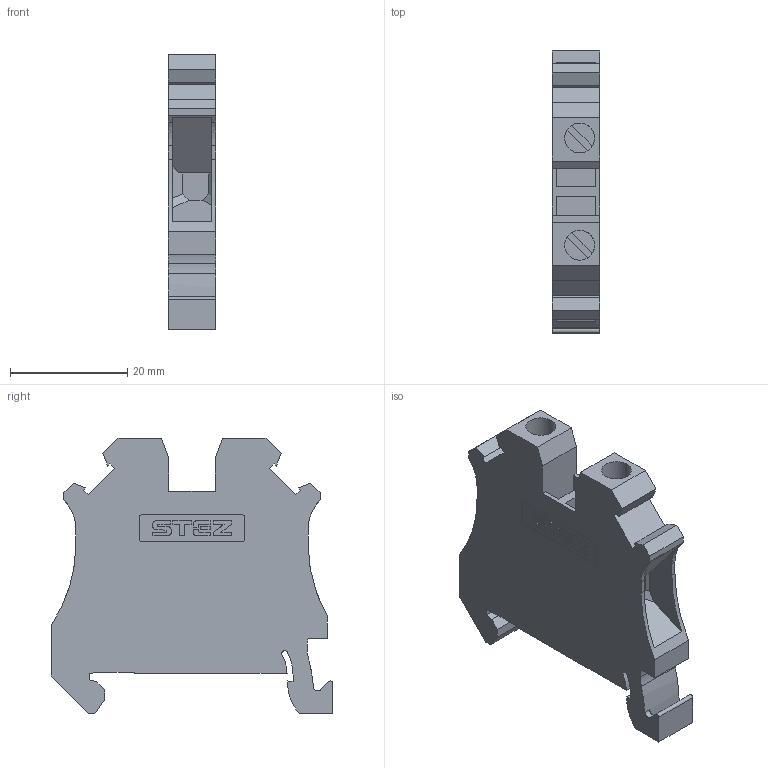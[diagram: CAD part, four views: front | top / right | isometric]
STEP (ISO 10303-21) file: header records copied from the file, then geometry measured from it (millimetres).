
FILE_DESCRIPTION(('TFLEX Exchange Step'),'2;1');
FILE_NAME('11000027_KHB_6-2-O.stp', '2023-10-03T10:43:14+03:00',('apanin'),('Unknown organisation'),'TFLEX Exchange 2023.0','T-FLEX CAD','Unknown authorisation');
FILE_SCHEMA( ('AUTOMOTIVE_DESIGN { 1 0 10303 214 1 1 1 1 }') );
Length unit declared in the file: millimetre
Products named in the file (1): Тело_1 - 1:1
Bounding box: 8.15 x 48 x 46.85 mm (x, y, z)
Volume: 11006.6 mm3; surface area: 6372.1 mm2
Topology: 1 solids, 1 shells, 347 faces, 1004 edges, 668 vertices
Faces by surface type: cylinder 182, plane 165
Full cylindrical faces by diameter (mm): 5.1 x2
Entity records: 11579 total; most frequent: DIRECTION 2058, CARTESIAN_POINT 2043, ORIENTED_EDGE 2008, EDGE_CURVE 1004, AXIS2_PLACEMENT_3D 729, VERTEX_POINT 668, VECTOR 600, LINE 600
